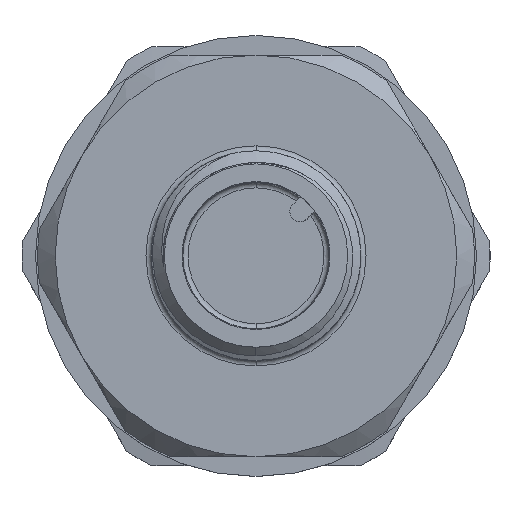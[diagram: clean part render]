
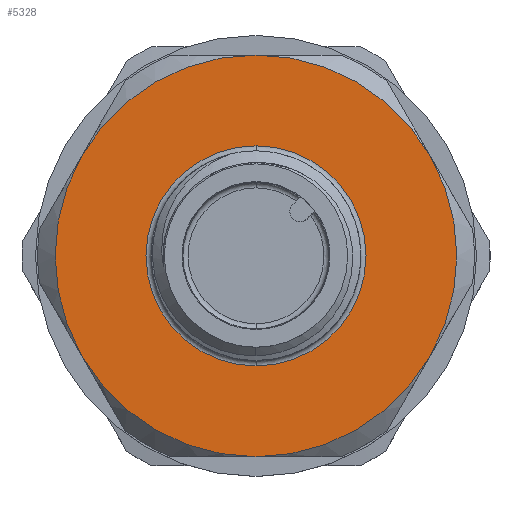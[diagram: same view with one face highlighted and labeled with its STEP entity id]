
A CAD part, top view. The second image highlights one B-rep face of the part: STEP entity #5328.
In plain terms, the highlighted planar face has unit normal (0, 0, 1).
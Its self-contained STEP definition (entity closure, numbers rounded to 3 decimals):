
#267 = DIRECTION ( 'NONE',  ( 0., 1., 0. ) ) ;
#281 = DIRECTION ( 'NONE',  ( 0., 1., 0. ) ) ;
#382 = CARTESIAN_POINT ( 'NONE',  ( 0., 0., 5.55 ) ) ;
#461 = VERTEX_POINT ( 'NONE', #4282 ) ;
#522 = VERTEX_POINT ( 'NONE', #6528 ) ;
#763 = DIRECTION ( 'NONE',  ( 0., 0., 1. ) ) ;
#768 = CARTESIAN_POINT ( 'NONE',  ( -9.959, -5.75, 5.55 ) ) ;
#846 = CARTESIAN_POINT ( 'NONE',  ( -6.3, 0., 5.55 ) ) ;
#858 = CIRCLE ( 'NONE', #4853, 6.3 ) ;
#1346 = CARTESIAN_POINT ( 'NONE',  ( 0., 0., 5.55 ) ) ;
#1411 = DIRECTION ( 'NONE',  ( 0., 1., 0. ) ) ;
#1448 = CARTESIAN_POINT ( 'NONE',  ( 0., 0., 5.55 ) ) ;
#1468 = FACE_BOUND ( 'NONE', #5744, .T. ) ;
#1629 = ORIENTED_EDGE ( 'NONE', *, *, #7696, .T. ) ;
#2005 = CARTESIAN_POINT ( 'NONE',  ( 0., 0., 5.55 ) ) ;
#2124 = AXIS2_PLACEMENT_3D ( 'NONE', #4862, #7267, #1411 ) ;
#2174 = EDGE_CURVE ( 'NONE', #522, #4787, #2240, .T. ) ;
#2240 = CIRCLE ( 'NONE', #5247, 11.5 ) ;
#2336 = CARTESIAN_POINT ( 'NONE',  ( 0., 0., 5.55 ) ) ;
#2378 = CIRCLE ( 'NONE', #2124, 11.5 ) ;
#2466 = CIRCLE ( 'NONE', #5729, 11.5 ) ;
#2599 = EDGE_CURVE ( 'NONE', #2878, #522, #2624, .T. ) ;
#2624 = CIRCLE ( 'NONE', #7257, 11.5 ) ;
#2629 = VERTEX_POINT ( 'NONE', #5293 ) ;
#2878 = VERTEX_POINT ( 'NONE', #768 ) ;
#2904 = DIRECTION ( 'NONE',  ( 0., 1., 0. ) ) ;
#2977 = AXIS2_PLACEMENT_3D ( 'NONE', #846, #3237, #3157 ) ;
#2995 = AXIS2_PLACEMENT_3D ( 'NONE', #2005, #4562, #5689 ) ;
#3157 = DIRECTION ( 'NONE',  ( 0., -1., 0. ) ) ;
#3217 = EDGE_CURVE ( 'NONE', #7275, #5693, #5883, .T. ) ;
#3237 = DIRECTION ( 'NONE',  ( 0., 0., -1. ) ) ;
#3244 = CARTESIAN_POINT ( 'NONE',  ( 0., 6.3, 5.55 ) ) ;
#3408 = EDGE_CURVE ( 'NONE', #2629, #6829, #6518, .T. ) ;
#3454 = ORIENTED_EDGE ( 'NONE', *, *, #7475, .F. ) ;
#3561 = EDGE_CURVE ( 'NONE', #4787, #461, #2378, .T. ) ;
#3887 = ORIENTED_EDGE ( 'NONE', *, *, #3408, .T. ) ;
#3900 = ORIENTED_EDGE ( 'NONE', *, *, #3217, .F. ) ;
#4019 = DIRECTION ( 'NONE',  ( 0., 1., 0. ) ) ;
#4172 = ORIENTED_EDGE ( 'NONE', *, *, #6585, .T. ) ;
#4248 = CARTESIAN_POINT ( 'NONE',  ( 9.959, -5.75, 5.55 ) ) ;
#4282 = CARTESIAN_POINT ( 'NONE',  ( 9.959, 5.75, 5.55 ) ) ;
#4295 = DIRECTION ( 'NONE',  ( 0., 1., 0. ) ) ;
#4547 = CARTESIAN_POINT ( 'NONE',  ( 0., -6.3, 5.55 ) ) ;
#4560 = ORIENTED_EDGE ( 'NONE', *, *, #2174, .T. ) ;
#4562 = DIRECTION ( 'NONE',  ( 0., 0., 1. ) ) ;
#4577 = DIRECTION ( 'NONE',  ( 0., 0., 1. ) ) ;
#4628 = DIRECTION ( 'NONE',  ( 0., 0., 1. ) ) ;
#4787 = VERTEX_POINT ( 'NONE', #4248 ) ;
#4853 = AXIS2_PLACEMENT_3D ( 'NONE', #1346, #763, #4295 ) ;
#4862 = CARTESIAN_POINT ( 'NONE',  ( 0., 0., 5.55 ) ) ;
#5247 = AXIS2_PLACEMENT_3D ( 'NONE', #1448, #5680, #281 ) ;
#5255 = CARTESIAN_POINT ( 'NONE',  ( 0., 0., 5.55 ) ) ;
#5293 = CARTESIAN_POINT ( 'NONE',  ( 0., 11.5, 5.55 ) ) ;
#5328 = ADVANCED_FACE ( 'NONE', ( #1468, #7432 ), #6141, .F. ) ;
#5379 = AXIS2_PLACEMENT_3D ( 'NONE', #382, #4577, #267 ) ;
#5676 = ORIENTED_EDGE ( 'NONE', *, *, #3561, .T. ) ;
#5680 = DIRECTION ( 'NONE',  ( 0., 0., 1. ) ) ;
#5689 = DIRECTION ( 'NONE',  ( 0., 1., 0. ) ) ;
#5693 = VERTEX_POINT ( 'NONE', #4547 ) ;
#5729 = AXIS2_PLACEMENT_3D ( 'NONE', #7078, #6487, #4019 ) ;
#5744 = EDGE_LOOP ( 'NONE', ( #3900, #3454 ) ) ;
#5876 = CIRCLE ( 'NONE', #2995, 11.5 ) ;
#5883 = CIRCLE ( 'NONE', #5379, 6.3 ) ;
#5939 = DIRECTION ( 'NONE',  ( 0., 1., 0. ) ) ;
#6051 = EDGE_LOOP ( 'NONE', ( #3887, #1629, #6468, #4560, #5676, #4172 ) ) ;
#6141 = PLANE ( 'NONE',  #2977 ) ;
#6465 = DIRECTION ( 'NONE',  ( 0., 0., 1. ) ) ;
#6468 = ORIENTED_EDGE ( 'NONE', *, *, #2599, .T. ) ;
#6487 = DIRECTION ( 'NONE',  ( 0., 0., 1. ) ) ;
#6518 = CIRCLE ( 'NONE', #7511, 11.5 ) ;
#6528 = CARTESIAN_POINT ( 'NONE',  ( 0., -11.5, 5.55 ) ) ;
#6585 = EDGE_CURVE ( 'NONE', #461, #2629, #2466, .T. ) ;
#6829 = VERTEX_POINT ( 'NONE', #6859 ) ;
#6859 = CARTESIAN_POINT ( 'NONE',  ( -9.959, 5.75, 5.55 ) ) ;
#7078 = CARTESIAN_POINT ( 'NONE',  ( 0., 0., 5.55 ) ) ;
#7257 = AXIS2_PLACEMENT_3D ( 'NONE', #5255, #4628, #2904 ) ;
#7267 = DIRECTION ( 'NONE',  ( 0., 0., 1. ) ) ;
#7275 = VERTEX_POINT ( 'NONE', #3244 ) ;
#7432 = FACE_OUTER_BOUND ( 'NONE', #6051, .T. ) ;
#7475 = EDGE_CURVE ( 'NONE', #5693, #7275, #858, .T. ) ;
#7511 = AXIS2_PLACEMENT_3D ( 'NONE', #2336, #6465, #5939 ) ;
#7696 = EDGE_CURVE ( 'NONE', #6829, #2878, #5876, .T. ) ;
